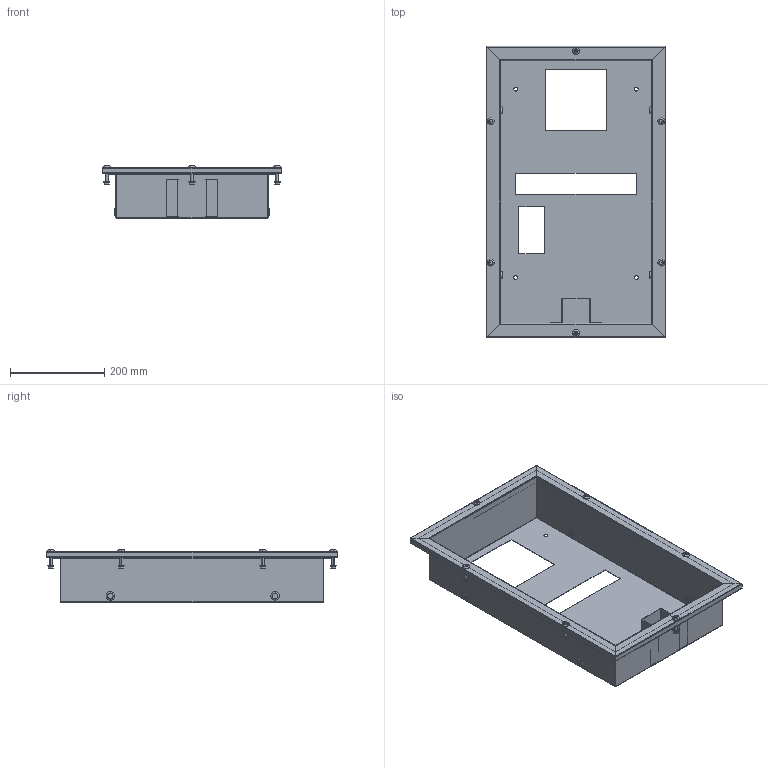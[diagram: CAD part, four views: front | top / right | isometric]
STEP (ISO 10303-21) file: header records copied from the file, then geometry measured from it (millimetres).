
FILE_DESCRIPTION (( 'STEP AP203' ), '1' );
FILE_NAME ('RAKLMCSI1.STEP', '2014-06-25T10:41:38', ( '' ), ( '' ), 'SwSTEP 2.0', 'SolidWorks 2014', '' );
FILE_SCHEMA (( 'CONFIG_CONTROL_DESIGN' ));
Length unit declared in the file: millimetre
Products named in the file (27): GOM-14; VIT-COMBI-M6X30-ZN; RAKLMCSI1; DADO-FLA-M6-ZN; L00251; L00232; 16x15H; 16x15H_G-RAKLMCSI1; DADO-FLA-M6-ZN_Hexagon Flange Nut DIN 6923 - M5 - N
Assembly tree (20 placements, depth 3):
  GOM-14
  VIT-COMBI-M6X30-ZN
  RAKLMCSI1
    L00251
      L00251
      L00232
    16x15H_G-RAKLMCSI1
    VIT-COMBI-M6X30-ZN  x6
    DADO-FLA-M6-ZN_Hexagon Flange Nut DIN 6923 - M5 - N  x6
    GOM-14  x4
  GOM-14
  DADO-FLA-M6-ZN
Bounding box: 381 x 618 x 111.5 mm (x, y, z)
Volume: 869521 mm3; surface area: 1016033.5 mm2
Topology: 19 solids, 19 shells, 605 faces, 1373 edges, 830 vertices
Faces by surface type: plane 328, cylinder 129, bspline 60, cone 56, torus 32
Entity records: 12947 total; most frequent: CARTESIAN_POINT 3080, ORIENTED_EDGE 1502, DIRECTION 1453, EDGE_CURVE 751, VECTOR 507, LINE 507, AXIS2_PLACEMENT_3D 473, VERTEX_POINT 442
